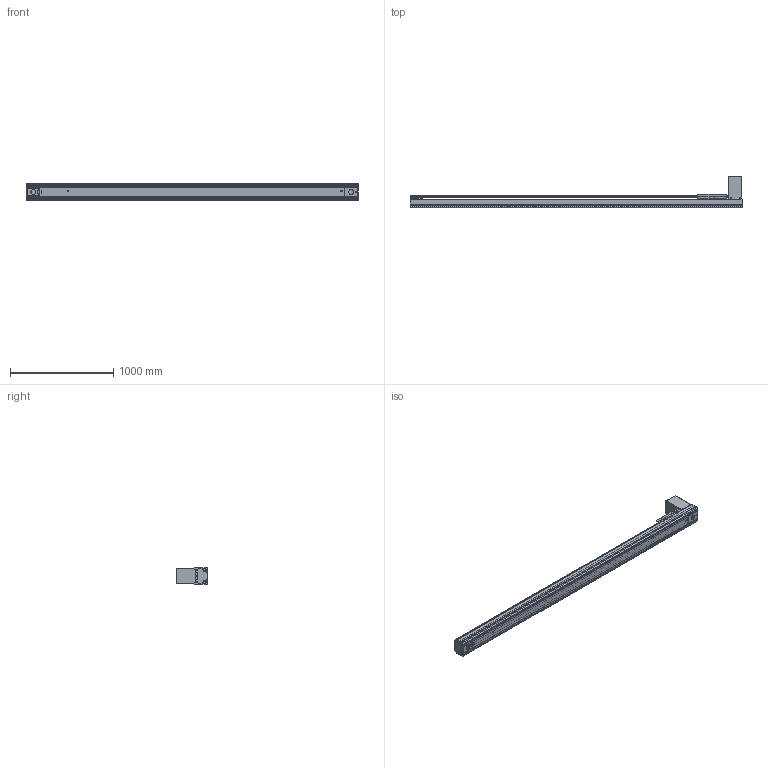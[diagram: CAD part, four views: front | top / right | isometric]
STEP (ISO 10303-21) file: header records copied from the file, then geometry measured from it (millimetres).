
FILE_DESCRIPTION((''),'2;1');
FILE_NAME('BE50G-BT-L19N-S5_IGS_PRT','2017-06-18T',(' '),(''),'PRO/ENGINEER BY PARAMETRIC TECHNOLOGY CORPORATION, 2015030','PRO/ENGINEER BY PARAMETRIC TECHNOLOGY CORPORATION, 2015030','');
FILE_SCHEMA(('CONFIG_CONTROL_DESIGN'));
Products named in the file (1): BE50G-BT-L19N-S5_IGS_PRT
Bounding box: 3220 x 309 x 160 mm (x, y, z)
Volume: 12106659.4 mm3; surface area: 5510453 mm2
Topology: 9 solids, 302 shells, 2203 faces, 6479 edges, 4476 vertices
Faces by surface type: cylinder 1161, plane 817, cone 182, sphere 23, torus 20
Entity records: 77890 total; most frequent: CARTESIAN_POINT 18743, DIRECTION 12187, ORIENTED_EDGE 11846, EDGE_CURVE 6405, AXIS2_PLACEMENT_3D 4629, VERTEX_POINT 4476, VECTOR 2929, LINE 2929
